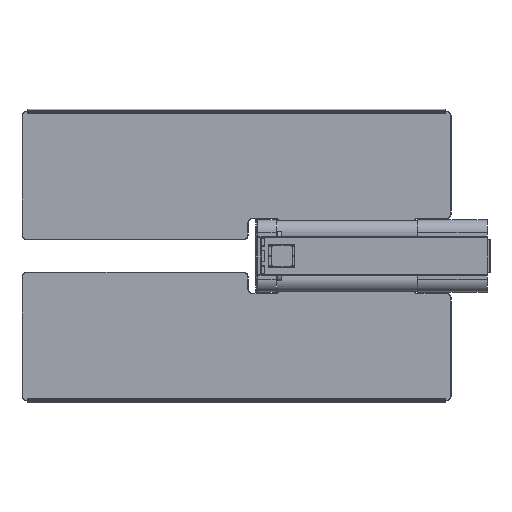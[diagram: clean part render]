
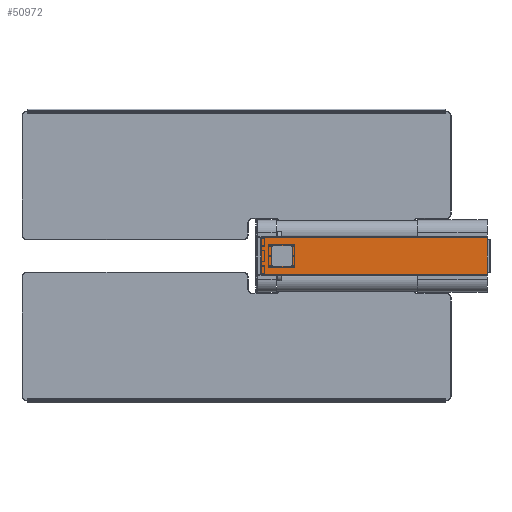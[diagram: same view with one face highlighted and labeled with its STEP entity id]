
A CAD part, left-side view. The second image highlights one B-rep face of the part: STEP entity #50972.
In plain terms, the highlighted planar face has unit normal (-1, 0, 0).
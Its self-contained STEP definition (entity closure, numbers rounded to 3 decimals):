
#696 = ORIENTED_EDGE ( 'NONE', *, *, #24655, .F. ) ;
#773 = EDGE_CURVE ( 'NONE', #21738, #16524, #40062, .T. ) ;
#960 = LINE ( 'NONE', #39760, #48037 ) ;
#1028 = EDGE_LOOP ( 'NONE', ( #12521, #8924, #35466, #48150, #32668, #28094, #24835, #52957 ) ) ;
#1266 = EDGE_CURVE ( 'NONE', #21654, #30601, #47145, .T. ) ;
#1733 = VECTOR ( 'NONE', #56691, 1000. ) ;
#1760 = LINE ( 'NONE', #19269, #40181 ) ;
#1987 = ORIENTED_EDGE ( 'NONE', *, *, #38414, .F. ) ;
#2180 = CARTESIAN_POINT ( 'NONE',  ( 0., 826., -40. ) ) ;
#2643 = CARTESIAN_POINT ( 'NONE',  ( 0., 3., -74. ) ) ;
#3429 = CARTESIAN_POINT ( 'NONE',  ( 0., 754., -36. ) ) ;
#4412 = DIRECTION ( 'NONE',  ( 0., 1., 0. ) ) ;
#5132 = EDGE_CURVE ( 'NONE', #16524, #40344, #46411, .T. ) ;
#6122 = DIRECTION ( 'NONE',  ( 0., 0., -1. ) ) ;
#6600 = AXIS2_PLACEMENT_3D ( 'NONE', #3429, #51673, #24393 ) ;
#7231 = VERTEX_POINT ( 'NONE', #29026 ) ;
#7238 = LINE ( 'NONE', #2643, #28707 ) ;
#7507 = AXIS2_PLACEMENT_3D ( 'NONE', #21450, #20882, #39016 ) ;
#7576 = EDGE_LOOP ( 'NONE', ( #55403, #21105, #1987, #35391, #21519, #47701, #23168, #696 ) ) ;
#8924 = ORIENTED_EDGE ( 'NONE', *, *, #29789, .F. ) ;
#9574 = VECTOR ( 'NONE', #54069, 1000. ) ;
#9668 = CARTESIAN_POINT ( 'NONE',  ( 0., 826., -36. ) ) ;
#9770 = CIRCLE ( 'NONE', #26220, 4. ) ;
#10288 = VERTEX_POINT ( 'NONE', #42025 ) ;
#10722 = PLANE ( 'NONE',  #15473 ) ;
#10942 = VECTOR ( 'NONE', #16101, 1000. ) ;
#11067 = CARTESIAN_POINT ( 'NONE',  ( 0., 826., -40. ) ) ;
#11186 = EDGE_CURVE ( 'NONE', #10288, #21815, #21207, .T. ) ;
#11261 = VECTOR ( 'NONE', #48825, 1000. ) ;
#11777 = CARTESIAN_POINT ( 'NONE',  ( 0., 3., 73.585 ) ) ;
#12521 = ORIENTED_EDGE ( 'NONE', *, *, #773, .F. ) ;
#12540 = EDGE_CURVE ( 'NONE', #30601, #51445, #7238, .T. ) ;
#13067 = CARTESIAN_POINT ( 'NONE',  ( 0., 3.001, -74. ) ) ;
#14112 = VECTOR ( 'NONE', #46160, 1000. ) ;
#14457 = VECTOR ( 'NONE', #27669, 1000. ) ;
#14600 = EDGE_CURVE ( 'NONE', #22470, #44154, #960, .T. ) ;
#15299 = LINE ( 'NONE', #28520, #14457 ) ;
#15473 = AXIS2_PLACEMENT_3D ( 'NONE', #46343, #45771, #6122 ) ;
#15544 = EDGE_CURVE ( 'NONE', #16676, #10288, #27367, .T. ) ;
#16101 = DIRECTION ( 'NONE',  ( 0., 1., 0. ) ) ;
#16524 = VERTEX_POINT ( 'NONE', #45904 ) ;
#16676 = VERTEX_POINT ( 'NONE', #29758 ) ;
#16986 = LINE ( 'NONE', #47191, #1733 ) ;
#18397 = EDGE_CURVE ( 'NONE', #52208, #51445, #15299, .T. ) ;
#19269 = CARTESIAN_POINT ( 'NONE',  ( 0., 830., -36. ) ) ;
#19378 = CARTESIAN_POINT ( 'NONE',  ( 0., 3., 70.999 ) ) ;
#20882 = DIRECTION ( 'NONE',  ( -1., 0., 0. ) ) ;
#21105 = ORIENTED_EDGE ( 'NONE', *, *, #30473, .F. ) ;
#21119 = CARTESIAN_POINT ( 'NONE',  ( 0., 750., -36. ) ) ;
#21207 = CIRCLE ( 'NONE', #7507, 4. ) ;
#21450 = CARTESIAN_POINT ( 'NONE',  ( 0., 826., 36. ) ) ;
#21519 = ORIENTED_EDGE ( 'NONE', *, *, #15544, .F. ) ;
#21586 = VECTOR ( 'NONE', #34073, 1000. ) ;
#21654 = VERTEX_POINT ( 'NONE', #47531 ) ;
#21738 = VERTEX_POINT ( 'NONE', #42323 ) ;
#21815 = VERTEX_POINT ( 'NONE', #30829 ) ;
#22470 = VERTEX_POINT ( 'NONE', #21119 ) ;
#22780 = VERTEX_POINT ( 'NONE', #11067 ) ;
#23120 = DIRECTION ( 'NONE',  ( 0., 0., -1. ) ) ;
#23168 = ORIENTED_EDGE ( 'NONE', *, *, #14600, .F. ) ;
#24393 = DIRECTION ( 'NONE',  ( 0., 0., -1. ) ) ;
#24655 = EDGE_CURVE ( 'NONE', #7231, #22470, #31362, .T. ) ;
#24835 = ORIENTED_EDGE ( 'NONE', *, *, #51075, .F. ) ;
#25555 = CARTESIAN_POINT ( 'NONE',  ( 0., 870., 71. ) ) ;
#25898 = CARTESIAN_POINT ( 'NONE',  ( 0., 830., -36. ) ) ;
#26095 = EDGE_CURVE ( 'NONE', #22780, #7231, #46440, .T. ) ;
#26220 = AXIS2_PLACEMENT_3D ( 'NONE', #54454, #50168, #37774 ) ;
#27367 = LINE ( 'NONE', #39733, #9574 ) ;
#27669 = DIRECTION ( 'NONE',  ( 0., -1., 0. ) ) ;
#27872 = CARTESIAN_POINT ( 'NONE',  ( 0., 3., 71. ) ) ;
#28094 = ORIENTED_EDGE ( 'NONE', *, *, #18397, .F. ) ;
#28520 = CARTESIAN_POINT ( 'NONE',  ( 0., 870., 71. ) ) ;
#28707 = VECTOR ( 'NONE', #37955, 1000. ) ;
#29026 = CARTESIAN_POINT ( 'NONE',  ( 0., 754., -40. ) ) ;
#29758 = CARTESIAN_POINT ( 'NONE',  ( 0., 754., 40. ) ) ;
#29789 = EDGE_CURVE ( 'NONE', #56332, #21738, #32955, .T. ) ;
#30473 = EDGE_CURVE ( 'NONE', #46228, #22780, #50151, .T. ) ;
#30601 = VERTEX_POINT ( 'NONE', #19378 ) ;
#30829 = CARTESIAN_POINT ( 'NONE',  ( 0., 830., 36. ) ) ;
#31143 = DIRECTION ( 'NONE',  ( 0., 0., 1. ) ) ;
#31289 = CARTESIAN_POINT ( 'NONE',  ( 0., 3., -70.999 ) ) ;
#31362 = CIRCLE ( 'NONE', #6600, 4. ) ;
#31429 = DIRECTION ( 'NONE',  ( 0., 0., -1. ) ) ;
#32668 = ORIENTED_EDGE ( 'NONE', *, *, #12540, .T. ) ;
#32955 = LINE ( 'NONE', #42395, #21586 ) ;
#34073 = DIRECTION ( 'NONE',  ( 0., 1., 0. ) ) ;
#35185 = EDGE_CURVE ( 'NONE', #44154, #16676, #9770, .T. ) ;
#35391 = ORIENTED_EDGE ( 'NONE', *, *, #11186, .F. ) ;
#35466 = ORIENTED_EDGE ( 'NONE', *, *, #54715, .F. ) ;
#36385 = AXIS2_PLACEMENT_3D ( 'NONE', #9668, #40395, #23120 ) ;
#36801 = DIRECTION ( 'NONE',  ( 0., 0., -1. ) ) ;
#37774 = DIRECTION ( 'NONE',  ( 0., 0., -1. ) ) ;
#37955 = DIRECTION ( 'NONE',  ( 0., 0., 1. ) ) ;
#38414 = EDGE_CURVE ( 'NONE', #21815, #46228, #1760, .T. ) ;
#39016 = DIRECTION ( 'NONE',  ( 0., 0., -1. ) ) ;
#39733 = CARTESIAN_POINT ( 'NONE',  ( 0., 826., 40. ) ) ;
#39760 = CARTESIAN_POINT ( 'NONE',  ( 0., 750., -36. ) ) ;
#40062 = LINE ( 'NONE', #13067, #53947 ) ;
#40181 = VECTOR ( 'NONE', #36801, 1000. ) ;
#40344 = VERTEX_POINT ( 'NONE', #49359 ) ;
#40395 = DIRECTION ( 'NONE',  ( -1., 0., 0. ) ) ;
#42025 = CARTESIAN_POINT ( 'NONE',  ( 0., 826., 40. ) ) ;
#42260 = VECTOR ( 'NONE', #4412, 1000. ) ;
#42323 = CARTESIAN_POINT ( 'NONE',  ( 0., 3., -70.999 ) ) ;
#42395 = CARTESIAN_POINT ( 'NONE',  ( 0., 870., -70.999 ) ) ;
#43468 = CARTESIAN_POINT ( 'NONE',  ( 0., 1.5, -71. ) ) ;
#44020 = CARTESIAN_POINT ( 'NONE',  ( 0., 750., 36. ) ) ;
#44154 = VERTEX_POINT ( 'NONE', #44020 ) ;
#45492 = FACE_OUTER_BOUND ( 'NONE', #1028, .T. ) ;
#45771 = DIRECTION ( 'NONE',  ( 1., 0., 0. ) ) ;
#45904 = CARTESIAN_POINT ( 'NONE',  ( 0., 3., -71. ) ) ;
#46160 = DIRECTION ( 'NONE',  ( 0., -1., 0. ) ) ;
#46228 = VERTEX_POINT ( 'NONE', #25898 ) ;
#46343 = CARTESIAN_POINT ( 'NONE',  ( 0., 870., -74. ) ) ;
#46411 = LINE ( 'NONE', #43468, #42260 ) ;
#46440 = LINE ( 'NONE', #2180, #14112 ) ;
#47145 = LINE ( 'NONE', #25555, #10942 ) ;
#47191 = CARTESIAN_POINT ( 'NONE',  ( 0., 870., -74. ) ) ;
#47531 = CARTESIAN_POINT ( 'NONE',  ( 0., 3., 70.999 ) ) ;
#47701 = ORIENTED_EDGE ( 'NONE', *, *, #35185, .F. ) ;
#48037 = VECTOR ( 'NONE', #31143, 1000. ) ;
#48150 = ORIENTED_EDGE ( 'NONE', *, *, #1266, .T. ) ;
#48825 = DIRECTION ( 'NONE',  ( 0., 0., -1. ) ) ;
#49359 = CARTESIAN_POINT ( 'NONE',  ( 0., 870., -71. ) ) ;
#49797 = FACE_BOUND ( 'NONE', #7576, .T. ) ;
#50151 = CIRCLE ( 'NONE', #36385, 4. ) ;
#50168 = DIRECTION ( 'NONE',  ( -1., 0., 0. ) ) ;
#50174 = CARTESIAN_POINT ( 'NONE',  ( 0., 870., 71. ) ) ;
#50972 = ADVANCED_FACE ( 'NONE', ( #49797, #45492 ), #10722, .F. ) ;
#51075 = EDGE_CURVE ( 'NONE', #40344, #52208, #16986, .T. ) ;
#51122 = LINE ( 'NONE', #11777, #11261 ) ;
#51445 = VERTEX_POINT ( 'NONE', #27872 ) ;
#51673 = DIRECTION ( 'NONE',  ( -1., 0., 0. ) ) ;
#52208 = VERTEX_POINT ( 'NONE', #50174 ) ;
#52957 = ORIENTED_EDGE ( 'NONE', *, *, #5132, .F. ) ;
#53947 = VECTOR ( 'NONE', #31429, 1000. ) ;
#54069 = DIRECTION ( 'NONE',  ( 0., 1., 0. ) ) ;
#54454 = CARTESIAN_POINT ( 'NONE',  ( 0., 754., 36. ) ) ;
#54715 = EDGE_CURVE ( 'NONE', #21654, #56332, #51122, .T. ) ;
#55403 = ORIENTED_EDGE ( 'NONE', *, *, #26095, .F. ) ;
#56332 = VERTEX_POINT ( 'NONE', #31289 ) ;
#56691 = DIRECTION ( 'NONE',  ( 0., 0., 1. ) ) ;
